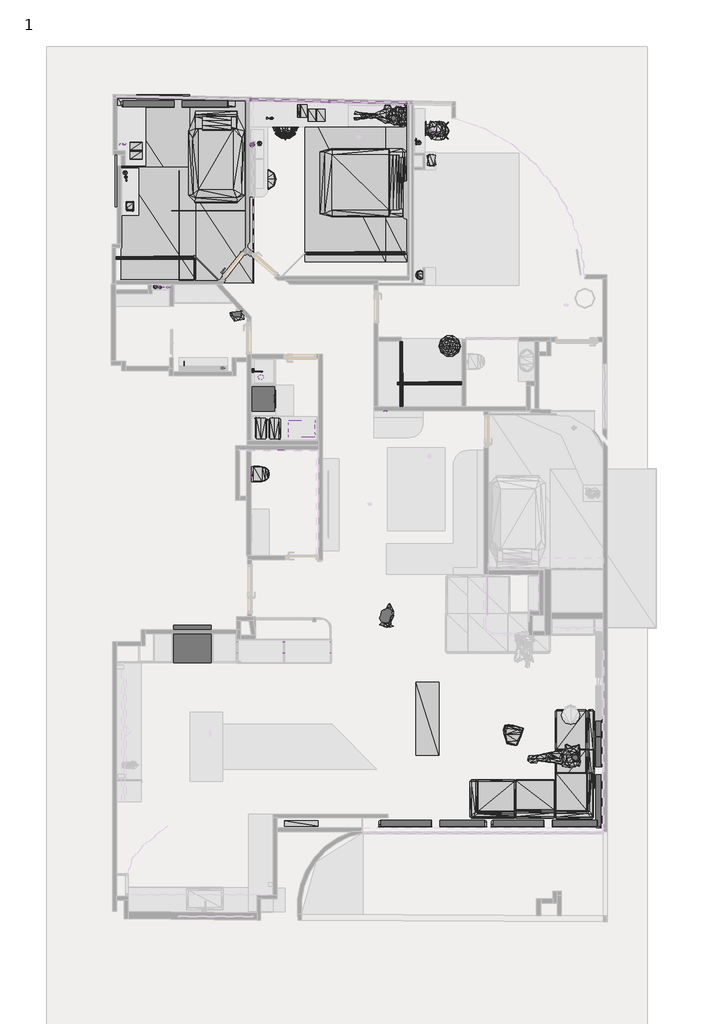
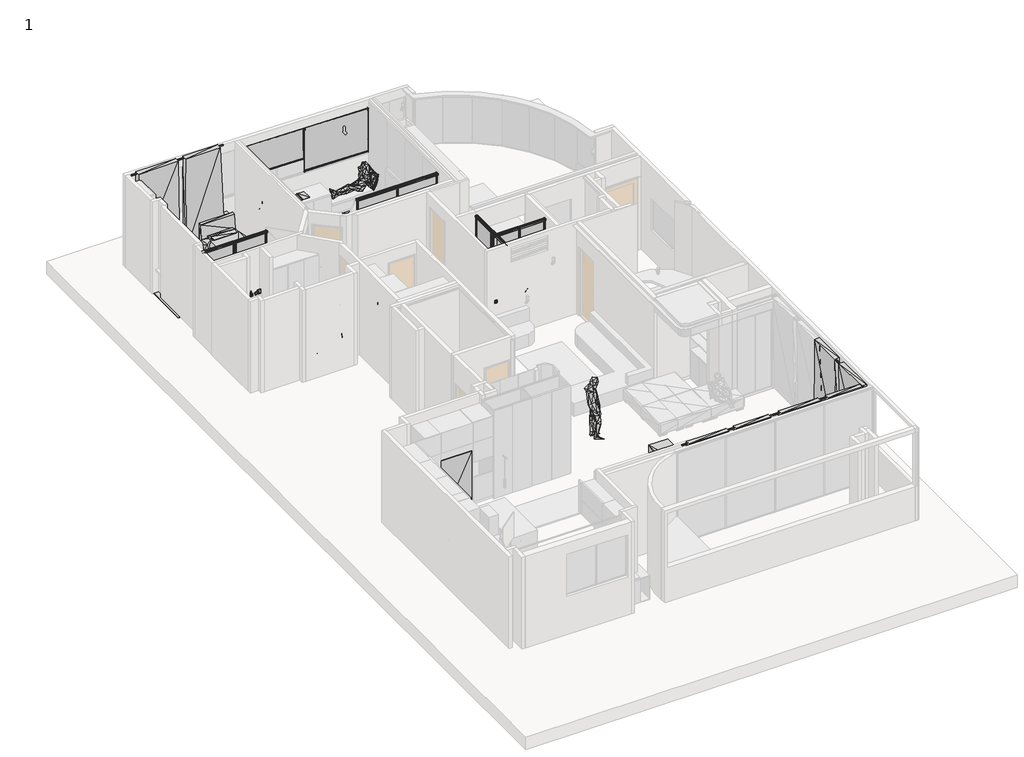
# One storey, part 10 of 11: 76 geographic elements, 21 proxies.
"""IFC4 building model written with IfcOpenShell, lengths in millimetres."""

from ifc_helpers import new_model, si_unit, origin, place, context, project, spatial, transform, mapped, element, save
from components import generic_models_e1ddd091, generic_models_de64f809, proxy_1_8_f4c32746, proxy_1_8_faa1cc4c, proxy_189_2_4748620c, proxy_189_2_be0c6724, proxy_194_fea3deca, proxy_194_778c1687, family3_family3_2d7e2772, ls_1520_ls_1520_03f69623, ls_900_1_gang_v_ls_900_1_gang_v_71324ef5, geographic_element_00167db2, geographic_element_baeea69e, geographic_element_f5c7f4e8, geographic_element_84cf364c, geographic_element_b15457b9, geographic_element_5121f11c, geographic_element_61ea8643, geographic_element_5fd375c3, geographic_element_2527c1db, geographic_element_b9c32f9a, enscape_assetdefinition_books_005_enscape_assetdefinition_b10d53aa, enscape_assetdefinition_chair_028_enscape_assetdefinition_7a4dbeed, enscape_assetdefinition_container_001_glass_enscape_05d8ce10, enscape_assetdefinition_creme_tube_003_enscape_79aa0b1a, enscape_assetdefinition_creme_tube_004_enscape_ba9f0d03, enscape_assetdefinition_creme_tube_005_enscape_e36b4c17, enscape_assetdefinition_creme_tube_006_enscape_deb4efeb, enscape_assetdefinition_faucet_004_enscape_assetdefinition_45639300, enscape_assetdefinition_flush_plate_004_enscape_ecd54baf, enscape_assetdefinition_pillow_010_enscape_assetdefinition_9ece25b9, enscape_assetdefinition_pillow_021_enscape_assetdefinition_4c80c713, enscape_assetdefinition_pouf_014_enscape_assetdefinition_d4033687, enscape_assetdefinition_refrigerator_007_enscape_9d81f1ac, enscape_assetdefinition_rug_008_enscape_assetdefinition_rug_19040a96, enscape_assetdefinition_soap_dispenser_001_enscape_b76c0e1f, enscape_assetdefinition_sofa_036_corner_enscape_ac6ef4ed, enscape_assetdefinition_sofa_040_enscape_assetdefinition_908a3bb4, enscape_assetdefinition_storage_box_002_enscape_b95ea167, enscape_assetdefinition_table_lamp_004_enscape_723846a9, enscape_assetdefinition_towel_004_enscape_assetdefinition_f5c1a14c, enscape_assetdefinition_towel_008_basket_enscape_9779ed23, enscape_assetdefinition_towel_009_stack_enscape_e0672893, enscape_assetdefinition_trolley_case_002_enscape_225e11ec, enscape_assetdefinition_trolley_case_003_enscape_f0869f00, enscape_assetdefinition_washing_machine_001_enscape_1ae1e846, tempenscape_assetdefinition_books_001_tempenscape_90869a48, tempenscape_assetdefinition_books_007_tempenscape_6df3b323, tempenscape_assetdefinition_chair_044_tempenscape_57264eab, tempenscape_assetdefinition_creme_tube_002_tempenscape_099a7565, tempenscape_assetdefinition_curtain_009_tempenscape_1b6ab596, tempenscape_assetdefinition_heater_001_tempenscape_d009f5ff, tempenscape_assetdefinition_library_sitting_02_tempenscape_2f781c9f, tempenscape_assetdefinition_pouf_010_tempenscape_f05cd489, tempenscape_assetdefinition_rug_018_tempenscape_b562c5ca, tempenscape_assetdefinition_soap_dispenser_002_tempenscape_9b9ddfe8, tempenscape_assetdefinition_stone_007_stone_tempenscape_f8b42c55, tempenscape_assetdefinition_toilet_001_tempenscape_ed570b02

model = new_model("IFC4")

# Units and contexts
model_context = context("Model", 3, world=origin())
ifc_project = project(units=[si_unit("LENGTHUNIT", "METRE", prefix="MILLI")], contexts=[model_context])

# Site, building, storey
site = spatial("IfcSite", under=ifc_project)
building = spatial("IfcBuilding", under=site)
storey = spatial("IfcBuildingStorey", under=building, Name="1", Elevation=0.0)

# Proxies
placement = place(None, origin())
generic_models_shape = generic_models_e1ddd091(model_context)
generic_models_2_shape = generic_models_de64f809(model_context)
element("IfcBuildingElementProxy", 1, Name="Doors-Other- SOGAL-SOG020022 : Doors-Other- SOGAL-SOG020022", ObjectType="Doors-Other- SOGAL-SOG020022 : Doors-Other- SOGAL-SOG020022", at=placement, inside=storey, context=model_context, shape_type="MappedRepresentation", body=[
    mapped(generic_models_shape, transform((93510.5964247, 22164.455081, 100.0), x_axis=(-1.0, 0.0, 0.0), y_axis=(0.0, -1.0, 0.0), z_axis=(0.0, 0.0, 1.0))),
    mapped(generic_models_2_shape, transform((93510.5964247, 22164.455081, 100.0), x_axis=(-1.0, 0.0, 0.0), y_axis=(0.0, -1.0, 0.0), z_axis=(0.0, 0.0, 1.0))),
])
proxy_1_8_shape = proxy_1_8_f4c32746(model_context)
proxy_1_8_2_shape = proxy_1_8_faa1cc4c(model_context)
element("IfcBuildingElementProxy", 2, Name="Doors-Other- SOGAL-SOG020022 : 1.8", ObjectType="Doors-Other- SOGAL-SOG020022 : 1.8", at=placement, inside=storey, context=model_context, shape_type="MappedRepresentation", body=[
    mapped(proxy_1_8_shape, transform((94682.5845465, 19143.4970592, 100.0), x_axis=(0.0, 1.0, 0.0), y_axis=(-1.0, 0.0, 0.0), z_axis=(0.0, 0.0, 1.0))),
    mapped(proxy_1_8_2_shape, transform((94682.5845465, 19143.4970592, 100.0), x_axis=(0.0, 1.0, 0.0), y_axis=(-1.0, 0.0, 0.0), z_axis=(0.0, 0.0, 1.0))),
])
element("IfcBuildingElementProxy", 3, Name="Doors-Other- SOGAL-SOG020022 : 1.8", ObjectType="Doors-Other- SOGAL-SOG020022 : 1.8", at=placement, inside=storey, context=model_context, shape_type="MappedRepresentation", body=[
    mapped(proxy_1_8_shape, transform((95334.7838788, 18958.8111171, 100.0), x_axis=(-1.0, 0.0, 0.0), y_axis=(0.0, -1.0, 0.0), z_axis=(0.0, 0.0, 1.0))),
    mapped(proxy_1_8_2_shape, transform((95334.7838788, 18958.8111171, 100.0), x_axis=(-1.0, 0.0, 0.0), y_axis=(0.0, -1.0, 0.0), z_axis=(0.0, 0.0, 1.0))),
])
proxy_189_2_shape = proxy_189_2_4748620c(model_context)
element("IfcBuildingElementProxy", 4, Name="Bandalux_RollerShades_Premium_SingleDrop : 189 2", ObjectType="Bandalux_RollerShades_Premium_SingleDrop : 189 2", at=placement, inside=storey, context=model_context, shape_type="MappedRepresentation", body=[
    mapped(proxy_189_2_shape, transform((93809.8691225, 25796.0618809, 2608.0), x_axis=(-0.9997504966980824, 0.02233706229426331, 0.0), y_axis=(0.0, 0.0, 1.0000000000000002), z_axis=(0.02233706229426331, 0.9997504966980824, 0.0))),
])
proxy_189_2_2_shape = proxy_189_2_be0c6724(model_context)
element("IfcBuildingElementProxy", 5, Name="Bandalux_RollerShades_Premium_SingleDrop : 189 2", ObjectType="Bandalux_RollerShades_Premium_SingleDrop : 189 2", at=placement, inside=storey, context=model_context, shape_type="MappedRepresentation", body=[
    mapped(proxy_189_2_2_shape, transform((91880.3506639, 25839.1724111, 2608.0), x_axis=(-0.9997504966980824, 0.02233706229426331, 0.0), y_axis=(0.0, 0.0, 1.0000000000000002), z_axis=(0.02233706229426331, 0.9997504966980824, 0.0))),
])
proxy_194_shape = proxy_194_fea3deca(model_context)
proxy_194_2_shape = proxy_194_778c1687(model_context)
element("IfcBuildingElementProxy", 6, Name="Doors-Other- SOGAL-SOG020022 : 194", ObjectType="Doors-Other- SOGAL-SOG020022 : 194", at=placement, inside=storey, context=model_context, shape_type="MappedRepresentation", body=[
    mapped(proxy_194_shape, transform((88558.7972847, 22051.7754811, 50.0), x_axis=(-1.0, 0.0, 0.0), y_axis=(0.0, -1.0, 0.0), z_axis=(0.0, 0.0, 1.0))),
    mapped(proxy_194_2_shape, transform((88558.7972847, 22051.7754811, 50.0), x_axis=(-1.0, 0.0, 0.0), y_axis=(0.0, -1.0, 0.0), z_axis=(0.0, 0.0, 1.0))),
])
family3_family3_shape = family3_family3_2d7e2772(model_context)
element("IfcBuildingElementProxy", 7, Name="Family3 : Family3", ObjectType="Family3 : Family3", at=placement, inside=storey, context=model_context, shape_type="MappedRepresentation", body=[
    mapped(family3_family3_shape, transform((90593.8549068, 12541.7518002, 1381.0), x_axis=(0.0, 0.0, -1.0), y_axis=(0.0, 1.0, 0.0), z_axis=(1.0, 0.0, 0.0))),
])
element("IfcBuildingElementProxy", 8, Name="Family3 : Family3", ObjectType="Family3 : Family3", at=placement, inside=storey, context=model_context, shape_type="MappedRepresentation", body=[
    mapped(family3_family3_shape, transform((90593.8549068, 12275.7518002, 1381.0), x_axis=(0.0, 0.0, -1.0), y_axis=(0.0, 1.0, 0.0), z_axis=(1.0, 0.0, 0.0))),
])
element("IfcBuildingElementProxy", 9, Name="Family3 : Family3", ObjectType="Family3 : Family3", at=placement, inside=storey, context=model_context, shape_type="MappedRepresentation", body=[
    mapped(family3_family3_shape, transform((91726.8549068, 12541.7518002, 1381.0), x_axis=(0.0, 0.0, -1.0), y_axis=(0.0, -1.0, 0.0), z_axis=(-1.0, 0.0, 0.0))),
])
element("IfcBuildingElementProxy", 10, Name="Family3 : Family3", ObjectType="Family3 : Family3", at=placement, inside=storey, context=model_context, shape_type="MappedRepresentation", body=[
    mapped(family3_family3_shape, transform((91726.8549068, 12275.7518002, 1381.0), x_axis=(0.0, 0.0, -1.0), y_axis=(0.0, -1.0, 0.0), z_axis=(-1.0, 0.0, 0.0))),
])
element("IfcBuildingElementProxy", 11, Name="Family3 : Family3", ObjectType="Family3 : Family3", at=placement, inside=storey, context=model_context, shape_type="MappedRepresentation", body=[
    mapped(family3_family3_shape, transform((91758.8549068, 12541.7518002, 1381.0), x_axis=(0.0, 0.0, -1.0), y_axis=(0.0, 1.0, 0.0), z_axis=(1.0, 0.0, 0.0))),
])
element("IfcBuildingElementProxy", 12, Name="Family3 : Family3", ObjectType="Family3 : Family3", at=placement, inside=storey, context=model_context, shape_type="MappedRepresentation", body=[
    mapped(family3_family3_shape, transform((91758.8549068, 12275.7518002, 1381.0), x_axis=(0.0, 0.0, -1.0), y_axis=(0.0, 1.0, 0.0), z_axis=(1.0, 0.0, 0.0))),
])
element("IfcBuildingElementProxy", 13, Name="Family3 : Family3", ObjectType="Family3 : Family3", at=placement, inside=storey, context=model_context, shape_type="MappedRepresentation", body=[
    mapped(family3_family3_shape, transform((92891.8549068, 12541.7518002, 1381.0), x_axis=(0.0, 0.0, -1.0), y_axis=(0.0, -1.0, 0.0), z_axis=(-1.0, 0.0, 0.0))),
])
element("IfcBuildingElementProxy", 14, Name="Family3 : Family3", ObjectType="Family3 : Family3", at=placement, inside=storey, context=model_context, shape_type="MappedRepresentation", body=[
    mapped(family3_family3_shape, transform((92891.8549068, 12275.7518002, 1381.0), x_axis=(0.0, 0.0, -1.0), y_axis=(0.0, -1.0, 0.0), z_axis=(-1.0, 0.0, 0.0))),
])
element("IfcBuildingElementProxy", 15, Name="Family3 : Family3", ObjectType="Family3 : Family3", at=placement, inside=storey, context=model_context, shape_type="MappedRepresentation", body=[
    mapped(family3_family3_shape, transform((90061.2286607, 10696.1644283, 631.0), x_axis=(0.0, 0.0, -1.0), y_axis=(1.0, 0.0, 0.0), z_axis=(0.0, -1.0, 0.0))),
])
element("IfcBuildingElementProxy", 16, Name="Family3 : Family3", ObjectType="Family3 : Family3", at=placement, inside=storey, context=model_context, shape_type="MappedRepresentation", body=[
    mapped(family3_family3_shape, transform((90061.2286607, 10228.1644283, 631.0), x_axis=(0.0, 0.0, -1.0), y_axis=(-1.0, 0.0, 0.0), z_axis=(0.0, 1.0, 0.0))),
])
element("IfcBuildingElementProxy", 17, Name="Family3 : Family3", ObjectType="Family3 : Family3", at=placement, inside=storey, context=model_context, shape_type="MappedRepresentation", body=[
    mapped(family3_family3_shape, transform((89795.2286607, 10228.1644283, 631.0), x_axis=(0.0, 0.0, -1.0), y_axis=(-1.0, 0.0, 0.0), z_axis=(0.0, 1.0, 0.0))),
])
element("IfcBuildingElementProxy", 18, Name="Family3 : Family3", ObjectType="Family3 : Family3", at=placement, inside=storey, context=model_context, shape_type="MappedRepresentation", body=[
    mapped(family3_family3_shape, transform((90061.2286607, 10191.101384, 631.0), x_axis=(0.0, 0.0, -1.0), y_axis=(1.0, 0.0, 0.0), z_axis=(0.0, -1.0, 0.0))),
])
element("IfcBuildingElementProxy", 19, Name="Family3 : Family3", ObjectType="Family3 : Family3", at=placement, inside=storey, context=model_context, shape_type="MappedRepresentation", body=[
    mapped(family3_family3_shape, transform((89795.2286607, 10191.101384, 631.0), x_axis=(0.0, 0.0, -1.0), y_axis=(1.0, 0.0, 0.0), z_axis=(0.0, -1.0, 0.0))),
])
ls_1520_ls_1520_shape = ls_1520_ls_1520_03f69623(model_context)
element("IfcBuildingElementProxy", 20, Name="LS 1520 : LS 1520", ObjectType="LS 1520 : LS 1520", at=placement, inside=storey, context=model_context, shape_type="MappedRepresentation", body=[
    mapped(ls_1520_ls_1520_shape, transform((94202.3345869, 18231.2281393, 1205.2), x_axis=(1.0, 0.0, 0.0), y_axis=(0.0, 0.0, 1.0), z_axis=(0.0, -1.0, 0.0))),
])
ls_900_1_gang_v_ls_900_1_gang_v_shape = ls_900_1_gang_v_ls_900_1_gang_v_71324ef5(model_context)
element("IfcBuildingElementProxy", 21, Name="LS 900_1-gang_V : LS 900_1-gang_V", ObjectType="LS 900_1-gang_V : LS 900_1-gang_V", at=placement, inside=storey, context=model_context, shape_type="MappedRepresentation", body=[
    mapped(ls_900_1_gang_v_ls_900_1_gang_v_shape, transform((94197.5845869, 18234.4281393, 1200.0), x_axis=(1.0, 0.0, 0.0), y_axis=(0.0, 0.0, 1.0), z_axis=(0.0, -1.0, 0.0))),
])

# Geographic elements
geographic_element_shape = geographic_element_00167db2(model_context)
element("IfcGeographicElement", 22, ObjectType="Enscape AssetDefinition - Elsje 001 Sitting : Enscape AssetDefinition - Elsje 001 Sitting", at=placement, inside=storey, context=model_context, shape_type="MappedRepresentation", body=[
    mapped(geographic_element_shape, transform((95485.3744747, 25129.5137259, 0.0), x_axis=(0.43006132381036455, -0.9027996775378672, 0.0), y_axis=(0.9027996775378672, 0.43006132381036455, 0.0), z_axis=(0.0, 0.0, 1.0))),
])
geographic_element_2_shape = geographic_element_baeea69e(model_context)
element("IfcGeographicElement", 23, ObjectType="Enscape AssetDefinition - Decorative Goods 030 Room Fragrance : Enscape AssetDefinition - Decorative Goods 030 Room Fragrance", at=placement, inside=storey, context=model_context, shape_type="MappedRepresentation", body=[
    mapped(geographic_element_2_shape, transform((90948.3823194, 24795.4054772, 1288.0044682), x_axis=(1.0, 0.0, 0.0), y_axis=(0.0, 1.0, 0.0), z_axis=(0.0, 0.0, 1.0))),
])
element("IfcGeographicElement", 24, ObjectType="Enscape AssetDefinition - Decorative Goods 030 Room Fragrance : Enscape AssetDefinition - Decorative Goods 030 Room Fragrance", at=placement, inside=storey, context=model_context, shape_type="MappedRepresentation", body=[
    mapped(geographic_element_2_shape, transform((90223.3368224, 19288.7930527, 770.0), x_axis=(-1.0, 0.0, 0.0), y_axis=(0.0, -1.0, 0.0), z_axis=(0.0, 0.0, 1.0))),
])
geographic_element_3_shape = geographic_element_f5c7f4e8(model_context)
element("IfcGeographicElement", 25, ObjectType="TempEnscape AssetDefinition - Decorative Goods 012 Bird : TempEnscape AssetDefinition - Decorative Goods 012 Bird", at=placement, inside=storey, context=model_context, shape_type="MappedRepresentation", body=[
    mapped(geographic_element_3_shape, transform((91435.5964247, 25438.8111171, 745.6495342), x_axis=(0.0, 1.0, 0.0), y_axis=(-1.0, 0.0, 0.0), z_axis=(0.0, 0.0, 1.0))),
])
geographic_element_4_shape = geographic_element_84cf364c(model_context)
element("IfcGeographicElement", 26, ObjectType="TempEnscape AssetDefinition - Notebook 003 Stack : TempEnscape AssetDefinition - Notebook 003 Stack", at=placement, inside=storey, context=model_context, shape_type="MappedRepresentation", body=[
    mapped(geographic_element_4_shape, transform((92186.5970845, 25620.8264862, 745.6495342), x_axis=(1.0, 0.0, 0.0), y_axis=(0.0, 1.0, 0.0), z_axis=(0.0, 0.0, 1.0))),
])
geographic_element_5_shape = geographic_element_b15457b9(model_context)
element("IfcGeographicElement", 27, ObjectType="TempEnscape AssetDefinition - Notebook 001 Open : TempEnscape AssetDefinition - Notebook 001 Open", at=placement, inside=storey, context=model_context, shape_type="MappedRepresentation", body=[
    mapped(geographic_element_5_shape, transform((92541.5040083, 25513.9432158, 745.6495342), x_axis=(1.0, 0.0, 0.0), y_axis=(0.0, 1.0, 0.0), z_axis=(0.0, 0.0, 1.0))),
])
element("IfcGeographicElement", 28, ObjectType="TempEnscape AssetDefinition - Notebook 001 Open : TempEnscape AssetDefinition - Notebook 001 Open", at=placement, inside=storey, context=model_context, shape_type="MappedRepresentation", body=[
    mapped(geographic_element_5_shape, transform((88096.6613055, 24639.2985284, 750.9574511), x_axis=(0.0, 1.0, 0.0), y_axis=(-1.0, 0.0, 0.0), z_axis=(0.0, 0.0, 1.0))),
])
geographic_element_6_shape = geographic_element_5121f11c(model_context)
element("IfcGeographicElement", 29, ObjectType="TempEnscape AssetDefinition - Alex 002 Sitting : TempEnscape AssetDefinition - Alex 002 Sitting", at=placement, inside=storey, context=model_context, shape_type="MappedRepresentation", body=[
    mapped(geographic_element_6_shape, transform((98625.1993701, 9682.3363239, 0.0), x_axis=(0.0, -1.0, 0.0), y_axis=(1.0, 0.0, 0.0), z_axis=(0.0, 0.0, 1.0))),
])
geographic_element_7_shape = geographic_element_61ea8643(model_context)
element("IfcGeographicElement", 30, ObjectType="Enscape AssetDefinition - Eli 003 Standing : Enscape AssetDefinition - Eli 003 Standing", at=placement, inside=storey, context=model_context, shape_type="MappedRepresentation", body=[
    mapped(geographic_element_7_shape, transform((94336.2614834, 13166.8008127, 0.0), x_axis=(0.0, 1.0, 0.0), y_axis=(-1.0, 0.0, 0.0), z_axis=(0.0, 0.0, 1.0))),
])
geographic_element_8_shape = geographic_element_5fd375c3(model_context)
element("IfcGeographicElement", 31, ObjectType="Enscape AssetDefinition - Bed 012 100x208 cm (20x82 in) : Enscape AssetDefinition - Bed 012 100x208 cm (20x82 in)", at=placement, inside=storey, context=model_context, shape_type="MappedRepresentation", body=[
    mapped(geographic_element_8_shape, transform((90070.4867294, 24579.2985284, 0.0), x_axis=(1.0, 0.0, 0.0), y_axis=(0.0, 1.0, 0.0), z_axis=(0.0, 0.0, 1.0))),
])
geographic_element_9_shape = geographic_element_2527c1db(model_context)
element("IfcGeographicElement", 32, ObjectType="TempEnscape AssetDefinition - Bed 014 164x220 cm (64x86 in) : TempEnscape AssetDefinition - Bed 014 164x220 cm (64x86 in)", at=placement, inside=storey, context=model_context, shape_type="MappedRepresentation", body=[
    mapped(geographic_element_9_shape, transform((93797.9241015, 23854.1923973, 0.0), x_axis=(0.0, -1.0, 0.0), y_axis=(1.0, 0.0, 0.0), z_axis=(0.0, 0.0, 1.0))),
])
geographic_element_10_shape = geographic_element_b9c32f9a(model_context)
element("IfcGeographicElement", 33, ObjectType="TempEnscape AssetDefinition - Anita 002 Sitting : TempEnscape AssetDefinition - Anita 002 Sitting", at=placement, inside=storey, context=model_context, shape_type="MappedRepresentation", body=[
    mapped(geographic_element_10_shape, transform((94109.8466293, 25474.3411788, 410.3965501), x_axis=(0.0, 1.0, 0.0), y_axis=(-1.0, 0.0, 0.0), z_axis=(0.0, 0.0, 1.0))),
])
enscape_assetdefinition_books_005_enscape_assetdefinition_shape = enscape_assetdefinition_books_005_enscape_assetdefinition_b10d53aa(model_context)
element("IfcGeographicElement", 34, ObjectType="Enscape AssetDefinition - Books 005 : Enscape AssetDefinition - Books 005", at=placement, inside=storey, context=model_context, shape_type="MappedRepresentation", body=[
    mapped(enscape_assetdefinition_books_005_enscape_assetdefinition_shape, transform((95394.604902, 24400.8480692, 335.8853505), x_axis=(0.0, 1.0, 0.0), y_axis=(-1.0, 0.0, 0.0), z_axis=(0.0, 0.0, 1.0))),
])
enscape_assetdefinition_chair_028_enscape_assetdefinition_shape = enscape_assetdefinition_chair_028_enscape_assetdefinition_7a4dbeed(model_context)
element("IfcGeographicElement", 35, ObjectType="Enscape AssetDefinition - Chair 028 : Enscape AssetDefinition - Chair 028", at=placement, inside=storey, context=model_context, shape_type="MappedRepresentation", body=[
    mapped(enscape_assetdefinition_chair_028_enscape_assetdefinition_shape, transform((95606.0615727, 25131.7991439, 0.0), x_axis=(0.0, -1.0, 0.0), y_axis=(1.0, 0.0, 0.0), z_axis=(0.0, 0.0, 1.0))),
])
enscape_assetdefinition_container_001_glass_enscape_shape = enscape_assetdefinition_container_001_glass_enscape_05d8ce10(model_context)
element("IfcGeographicElement", 36, ObjectType="Enscape AssetDefinition - Container 001 Glass : Enscape AssetDefinition - Container 001 Glass", at=placement, inside=storey, context=model_context, shape_type="MappedRepresentation", body=[
    mapped(enscape_assetdefinition_container_001_glass_enscape_shape, transform((90958.1562006, 24785.1793611, 1068.0044682), x_axis=(1.0, 0.0, 0.0), y_axis=(0.0, 1.0, 0.0), z_axis=(0.0, 0.0, 1.0))),
])
enscape_assetdefinition_creme_tube_003_enscape_shape = enscape_assetdefinition_creme_tube_003_enscape_79aa0b1a(model_context)
element("IfcGeographicElement", 37, ObjectType="Enscape AssetDefinition - Creme Tube 003 : Enscape AssetDefinition - Creme Tube 003", at=placement, inside=storey, context=model_context, shape_type="MappedRepresentation", body=[
    mapped(enscape_assetdefinition_creme_tube_003_enscape_shape, transform((90975.5964247, 24796.1744175, 804.0), x_axis=(0.0, 1.0, 0.0), y_axis=(-1.0, 0.0, 0.0), z_axis=(0.0, 0.0, 1.0))),
])
element("IfcGeographicElement", 38, ObjectType="Enscape AssetDefinition - Creme Tube 003 : Enscape AssetDefinition - Creme Tube 003", at=placement, inside=storey, context=model_context, shape_type="MappedRepresentation", body=[
    mapped(enscape_assetdefinition_creme_tube_003_enscape_shape, transform((88694.9742313, 21279.8259418, 1139.3658047), x_axis=(1.0, 0.0, 0.0), y_axis=(0.0, 1.0, 0.0), z_axis=(0.0, 0.0, 1.0))),
])
element("IfcGeographicElement", 39, ObjectType="Enscape AssetDefinition - Creme Tube 003 : Enscape AssetDefinition - Creme Tube 003", at=placement, inside=storey, context=model_context, shape_type="MappedRepresentation", body=[
    mapped(enscape_assetdefinition_creme_tube_003_enscape_shape, transform((88879.9742313, 21279.8259418, 1468.2878402), x_axis=(1.0, 0.0, 0.0), y_axis=(0.0, 1.0, 0.0), z_axis=(0.0, 0.0, 1.0))),
])
element("IfcGeographicElement", 40, ObjectType="Enscape AssetDefinition - Creme Tube 003 : Enscape AssetDefinition - Creme Tube 003", at=placement, inside=storey, context=model_context, shape_type="MappedRepresentation", body=[
    mapped(enscape_assetdefinition_creme_tube_003_enscape_shape, transform((94994.7838788, 24892.8529879, 826.9413776), x_axis=(0.0, 1.0, 0.0), y_axis=(-1.0, 0.0, 0.0), z_axis=(0.0, 0.0, 1.0))),
])
enscape_assetdefinition_creme_tube_004_enscape_shape = enscape_assetdefinition_creme_tube_004_enscape_ba9f0d03(model_context)
element("IfcGeographicElement", 41, ObjectType="Enscape AssetDefinition - Creme Tube 004 : Enscape AssetDefinition - Creme Tube 004", at=placement, inside=storey, context=model_context, shape_type="MappedRepresentation", body=[
    mapped(enscape_assetdefinition_creme_tube_004_enscape_shape, transform((87860.581112, 23909.1309386, 751.5554511), x_axis=(0.0, 1.0, 0.0), y_axis=(-1.0, 0.0, 0.0), z_axis=(0.0, 0.0, 1.0))),
])
element("IfcGeographicElement", 42, ObjectType="Enscape AssetDefinition - Creme Tube 004 : Enscape AssetDefinition - Creme Tube 004", at=placement, inside=storey, context=model_context, shape_type="MappedRepresentation", body=[
    mapped(enscape_assetdefinition_creme_tube_004_enscape_shape, transform((90985.0542569, 24761.1744175, 1548.0044682), x_axis=(0.0, 1.0, 0.0), y_axis=(-1.0, 0.0, 0.0), z_axis=(0.0, 0.0, 1.0))),
])
element("IfcGeographicElement", 43, ObjectType="Enscape AssetDefinition - Creme Tube 004 : Enscape AssetDefinition - Creme Tube 004", at=placement, inside=storey, context=model_context, shape_type="MappedRepresentation", body=[
    mapped(enscape_assetdefinition_creme_tube_004_enscape_shape, transform((94997.3556537, 24807.3248325, 826.9413776), x_axis=(0.0, 1.0, 0.0), y_axis=(-1.0, 0.0, 0.0), z_axis=(0.0, 0.0, 1.0))),
])
enscape_assetdefinition_creme_tube_005_enscape_shape = enscape_assetdefinition_creme_tube_005_enscape_e36b4c17(model_context)
element("IfcGeographicElement", 44, ObjectType="Enscape AssetDefinition - Creme Tube 005 : Enscape AssetDefinition - Creme Tube 005", at=placement, inside=storey, context=model_context, shape_type="MappedRepresentation", body=[
    mapped(enscape_assetdefinition_creme_tube_005_enscape_shape, transform((87844.253874, 23993.9871066, 751.5554511), x_axis=(1.0, 0.0, 0.0), y_axis=(0.0, 1.0, 0.0), z_axis=(0.0, 0.0, 1.0))),
])
element("IfcGeographicElement", 45, ObjectType="Enscape AssetDefinition - Creme Tube 005 : Enscape AssetDefinition - Creme Tube 005", at=placement, inside=storey, context=model_context, shape_type="MappedRepresentation", body=[
    mapped(enscape_assetdefinition_creme_tube_005_enscape_shape, transform((90977.1625169, 24826.1744175, 1548.0044682), x_axis=(1.0, 0.0, 0.0), y_axis=(0.0, 1.0, 0.0), z_axis=(0.0, 0.0, 1.0))),
])
element("IfcGeographicElement", 46, ObjectType="Enscape AssetDefinition - Creme Tube 005 : Enscape AssetDefinition - Creme Tube 005", at=placement, inside=storey, context=model_context, shape_type="MappedRepresentation", body=[
    mapped(enscape_assetdefinition_creme_tube_005_enscape_shape, transform((91100.5964247, 24021.1744175, 606.1629126), x_axis=(1.0, 0.0, 0.0), y_axis=(0.0, 1.0, 0.0), z_axis=(0.0, 0.0, 1.0))),
])
enscape_assetdefinition_creme_tube_006_enscape_shape = enscape_assetdefinition_creme_tube_006_enscape_deb4efeb(model_context)
element("IfcGeographicElement", 47, ObjectType="Enscape AssetDefinition - Creme Tube 006 : Enscape AssetDefinition - Creme Tube 006", at=placement, inside=storey, context=model_context, shape_type="MappedRepresentation", body=[
    mapped(enscape_assetdefinition_creme_tube_006_enscape_shape, transform((95068.4991704, 24839.300349, 826.9413776), x_axis=(1.0, 0.0, 0.0), y_axis=(0.0, 1.0, 0.0), z_axis=(0.0, 0.0, 1.0))),
])
enscape_assetdefinition_faucet_004_enscape_assetdefinition_shape = enscape_assetdefinition_faucet_004_enscape_assetdefinition_45639300(model_context)
element("IfcGeographicElement", 48, ObjectType="Enscape AssetDefinition - Faucet 004 : Enscape AssetDefinition - Faucet 004", at=placement, inside=storey, context=model_context, shape_type="MappedRepresentation", body=[
    mapped(enscape_assetdefinition_faucet_004_enscape_assetdefinition_shape, transform((90978.200692, 19203.4392141, 901.7599999), x_axis=(0.0, 1.0, 0.0), y_axis=(-1.0, 0.0, 0.0), z_axis=(0.0, 0.0, 1.0))),
])
enscape_assetdefinition_flush_plate_004_enscape_shape = enscape_assetdefinition_flush_plate_004_enscape_ecd54baf(model_context)
element("IfcGeographicElement", 49, ObjectType="Enscape AssetDefinition - Flush Plate 004 : Enscape AssetDefinition - Flush Plate 004", at=placement, inside=storey, context=model_context, shape_type="MappedRepresentation", body=[
    mapped(enscape_assetdefinition_flush_plate_004_enscape_shape, transform((91670.9091371, 17279.0614237, 1319.5279955), x_axis=(1.0, 0.0, 0.0), y_axis=(0.0, 1.0, 0.0), z_axis=(0.0, 0.0, 1.0))),
])
element("IfcGeographicElement", 50, ObjectType="Enscape AssetDefinition - Flush Plate 004 : Enscape AssetDefinition - Flush Plate 004", at=placement, inside=storey, context=model_context, shape_type="MappedRepresentation", body=[
    mapped(enscape_assetdefinition_flush_plate_004_enscape_shape, transform((90925.423998, 16680.4434784, 1320.1562534), x_axis=(0.0, 1.0, 0.0), y_axis=(-1.0, 0.0, 0.0), z_axis=(0.0, 0.0, 1.0))),
])
enscape_assetdefinition_pillow_010_enscape_assetdefinition_shape = enscape_assetdefinition_pillow_010_enscape_assetdefinition_9ece25b9(model_context)
element("IfcGeographicElement", 51, ObjectType="Enscape AssetDefinition - Pillow 010 : Enscape AssetDefinition - Pillow 010", at=placement, inside=storey, context=model_context, shape_type="MappedRepresentation", body=[
    mapped(enscape_assetdefinition_pillow_010_enscape_assetdefinition_shape, transform((94678.8466293, 25499.1842947, 410.3965501), x_axis=(0.0, -1.0, 0.0), y_axis=(1.0, 0.0, 0.0), z_axis=(0.0, 0.0, 1.0))),
])
enscape_assetdefinition_pillow_021_enscape_assetdefinition_shape = enscape_assetdefinition_pillow_021_enscape_assetdefinition_4c80c713(model_context)
element("IfcGeographicElement", 52, ObjectType="Enscape AssetDefinition - Pillow 021 : Enscape AssetDefinition - Pillow 021", at=placement, inside=storey, context=model_context, shape_type="MappedRepresentation", body=[
    mapped(enscape_assetdefinition_pillow_021_enscape_assetdefinition_shape, transform((98844.3502509, 9762.3363239, 450.0), x_axis=(0.0, -1.0, 0.0), y_axis=(1.0, 0.0, 0.0), z_axis=(0.0, 0.0, 1.0))),
])
enscape_assetdefinition_pouf_014_enscape_assetdefinition_shape = enscape_assetdefinition_pouf_014_enscape_assetdefinition_d4033687(model_context)
element("IfcGeographicElement", 53, ObjectType="Enscape AssetDefinition - Pouf 014 : Enscape AssetDefinition - Pouf 014", at=placement, inside=storey, context=model_context, shape_type="MappedRepresentation", body=[
    mapped(enscape_assetdefinition_pouf_014_enscape_assetdefinition_shape, transform((95824.9879055, 19832.3905873, 0.0), x_axis=(1.0, 0.0, 0.0), y_axis=(0.0, 1.0, 0.0), z_axis=(0.0, 0.0, 1.0))),
])
enscape_assetdefinition_refrigerator_007_enscape_shape = enscape_assetdefinition_refrigerator_007_enscape_9d81f1ac(model_context)
element("IfcGeographicElement", 54, ObjectType="Enscape AssetDefinition - Refrigerator 007 : Enscape AssetDefinition - Refrigerator 007", at=placement, inside=storey, context=model_context, shape_type="MappedRepresentation", body=[
    mapped(enscape_assetdefinition_refrigerator_007_enscape_shape, transform((89483.5455637, 12500.7398651, -180.0), x_axis=(1.0, 0.0, 0.0), y_axis=(0.0, 1.0, 0.0), z_axis=(0.0, 0.0, 1.0))),
])
enscape_assetdefinition_rug_008_enscape_assetdefinition_rug_shape = enscape_assetdefinition_rug_008_enscape_assetdefinition_rug_19040a96(model_context)
element("IfcGeographicElement", 55, ObjectType="Enscape AssetDefinition - Rug 008 : Enscape AssetDefinition - Rug 008", at=placement, inside=storey, context=model_context, shape_type="MappedRepresentation", body=[
    mapped(enscape_assetdefinition_rug_008_enscape_assetdefinition_rug_shape, transform((89890.4867294, 24539.2985284, 0.0), x_axis=(1.0, 0.0, 0.0), y_axis=(0.0, 1.0, 0.0), z_axis=(0.0, 0.0, 1.0))),
])
element("IfcGeographicElement", 56, ObjectType="Enscape AssetDefinition - Rug 008 : Enscape AssetDefinition - Rug 008", at=placement, inside=storey, context=model_context, shape_type="MappedRepresentation", body=[
    mapped(enscape_assetdefinition_rug_008_enscape_assetdefinition_rug_shape, transform((88498.7972847, 24639.2985284, 0.0), x_axis=(1.0, 0.0, 0.0), y_axis=(0.0, 1.0, 0.0), z_axis=(0.0, 0.0, 1.0))),
])
element("IfcGeographicElement", 57, ObjectType="Enscape AssetDefinition - Rug 008 : Enscape AssetDefinition - Rug 008", at=placement, inside=storey, context=model_context, shape_type="MappedRepresentation", body=[
    mapped(enscape_assetdefinition_rug_008_enscape_assetdefinition_rug_shape, transform((88647.0963876, 22856.0965018, 0.0), x_axis=(-1.0, 0.0, 0.0), y_axis=(0.0, -1.0, 0.0), z_axis=(0.0, 0.0, 1.0))),
])
element("IfcGeographicElement", 58, ObjectType="Enscape AssetDefinition - Rug 008 : Enscape AssetDefinition - Rug 008", at=placement, inside=storey, context=model_context, shape_type="MappedRepresentation", body=[
    mapped(enscape_assetdefinition_rug_008_enscape_assetdefinition_rug_shape, transform((90070.4867294, 22768.4619884, 0.0), x_axis=(-1.0, 0.0, 0.0), y_axis=(0.0, -1.0, 0.0), z_axis=(0.0, 0.0, 1.0))),
])
enscape_assetdefinition_soap_dispenser_001_enscape_shape = enscape_assetdefinition_soap_dispenser_001_enscape_b76c0e1f(model_context)
element("IfcGeographicElement", 59, ObjectType="Enscape AssetDefinition - Soap Dispenser 001 : Enscape AssetDefinition - Soap Dispenser 001", at=placement, inside=storey, context=model_context, shape_type="MappedRepresentation", body=[
    mapped(enscape_assetdefinition_soap_dispenser_001_enscape_shape, transform((91171.9328488, 19066.7006145, 1517.9834133), x_axis=(0.0, 1.0, 0.0), y_axis=(-1.0, 0.0, 0.0), z_axis=(0.0, 0.0, 1.0))),
])
enscape_assetdefinition_sofa_036_corner_enscape_shape = enscape_assetdefinition_sofa_036_corner_enscape_ac6ef4ed(model_context)
element("IfcGeographicElement", 60, ObjectType="Enscape AssetDefinition - Sofa 036 Corner : Enscape AssetDefinition - Sofa 036 Corner", at=placement, inside=storey, context=model_context, shape_type="MappedRepresentation", body=[
    mapped(enscape_assetdefinition_sofa_036_corner_enscape_shape, transform((96911.9283832, 8671.3988859, 0.0), x_axis=(1.0, 0.0, 0.0), y_axis=(0.0, 1.0, 0.0), z_axis=(0.0, 0.0, 1.0))),
])
element("IfcGeographicElement", 61, ObjectType="Enscape AssetDefinition - Sofa 036 Corner : Enscape AssetDefinition - Sofa 036 Corner", at=placement, inside=storey, context=model_context, shape_type="MappedRepresentation", body=[
    mapped(enscape_assetdefinition_sofa_036_corner_enscape_shape, transform((98904.3502509, 8788.2170362, 0.0), x_axis=(0.0, 1.0, 0.0), y_axis=(-1.0, 0.0, 0.0), z_axis=(0.0, 0.0, 1.0))),
])
enscape_assetdefinition_sofa_040_enscape_assetdefinition_shape = enscape_assetdefinition_sofa_040_enscape_assetdefinition_908a3bb4(model_context)
element("IfcGeographicElement", 62, ObjectType="Enscape AssetDefinition - Sofa 040 : Enscape AssetDefinition - Sofa 040", at=placement, inside=storey, context=model_context, shape_type="MappedRepresentation", body=[
    mapped(enscape_assetdefinition_sofa_040_enscape_assetdefinition_shape, transform((98909.3502509, 10373.8786425, 0.0), x_axis=(0.0, -1.0, 0.0), y_axis=(1.0, 0.0, 0.0), z_axis=(0.0, 0.0, 1.0))),
])
element("IfcGeographicElement", 63, ObjectType="Enscape AssetDefinition - Sofa 040 : Enscape AssetDefinition - Sofa 040", at=placement, inside=storey, context=model_context, shape_type="MappedRepresentation", body=[
    mapped(enscape_assetdefinition_sofa_040_enscape_assetdefinition_shape, transform((98909.3502509, 9413.8786425, 0.0), x_axis=(0.0, -1.0, 0.0), y_axis=(1.0, 0.0, 0.0), z_axis=(0.0, 0.0, 1.0))),
])
element("IfcGeographicElement", 64, ObjectType="Enscape AssetDefinition - Sofa 040 : Enscape AssetDefinition - Sofa 040", at=placement, inside=storey, context=model_context, shape_type="MappedRepresentation", body=[
    mapped(enscape_assetdefinition_sofa_040_enscape_assetdefinition_shape, transform((97924.3502509, 8682.3363239, 0.0), x_axis=(-1.0, 0.0, 0.0), y_axis=(0.0, -1.0, 0.0), z_axis=(0.0, 0.0, 1.0))),
])
enscape_assetdefinition_storage_box_002_enscape_shape = enscape_assetdefinition_storage_box_002_enscape_b95ea167(model_context)
element("IfcGeographicElement", 65, ObjectType="Enscape AssetDefinition - Storage Box 002 : Enscape AssetDefinition - Storage Box 002", at=placement, inside=storey, context=model_context, shape_type="MappedRepresentation", body=[
    mapped(enscape_assetdefinition_storage_box_002_enscape_shape, transform((92176.5419883, 17799.375477, 2020.9596521), x_axis=(0.0, 1.0, 0.0), y_axis=(-1.0, 0.0, 0.0), z_axis=(0.0, 0.0, 1.0))),
])
enscape_assetdefinition_table_lamp_004_enscape_shape = enscape_assetdefinition_table_lamp_004_enscape_723846a9(model_context)
element("IfcGeographicElement", 66, ObjectType="Enscape AssetDefinition - Table Lamp 004 : Enscape AssetDefinition - Table Lamp 004", at=placement, inside=storey, context=model_context, shape_type="MappedRepresentation", body=[
    mapped(enscape_assetdefinition_table_lamp_004_enscape_shape, transform((95099.145918, 21578.5122751, 335.0), x_axis=(1.0, 0.0, 0.0), y_axis=(0.0, 1.0, 0.0), z_axis=(0.0, 0.0, 1.0))),
])
enscape_assetdefinition_towel_004_enscape_assetdefinition_shape = enscape_assetdefinition_towel_004_enscape_assetdefinition_f5c1a14c(model_context)
element("IfcGeographicElement", 67, ObjectType="Enscape AssetDefinition - Towel 004 : Enscape AssetDefinition - Towel 004", at=placement, inside=storey, context=model_context, shape_type="MappedRepresentation", body=[
    mapped(enscape_assetdefinition_towel_004_enscape_assetdefinition_shape, transform((90556.1249883, 20675.6103518, 1700.0), x_axis=(0.9860415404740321, 0.16649949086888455, 0.0), y_axis=(-0.16649949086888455, 0.9860415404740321, 0.0), z_axis=(0.0, 0.0, 1.0))),
])
enscape_assetdefinition_towel_008_basket_enscape_shape = enscape_assetdefinition_towel_008_basket_enscape_9779ed23(model_context)
element("IfcGeographicElement", 68, ObjectType="Enscape AssetDefinition - Towel 008 Basket : Enscape AssetDefinition - Towel 008 Basket", at=placement, inside=storey, context=model_context, shape_type="MappedRepresentation", body=[
    mapped(enscape_assetdefinition_towel_008_basket_enscape_shape, transform((91255.7190128, 18424.7159446, 118.7196902), x_axis=(0.0, 1.0, 0.0), y_axis=(-1.0, 0.0, 0.0), z_axis=(0.0, 0.0, 1.0))),
])
enscape_assetdefinition_towel_009_stack_enscape_shape = enscape_assetdefinition_towel_009_stack_enscape_e0672893(model_context)
element("IfcGeographicElement", 69, ObjectType="Enscape AssetDefinition - Towel 009 Stack : Enscape AssetDefinition - Towel 009 Stack", at=placement, inside=storey, context=model_context, shape_type="MappedRepresentation", body=[
    mapped(enscape_assetdefinition_towel_009_stack_enscape_shape, transform((89468.3368224, 19288.7930527, 448.3898917), x_axis=(-1.0, 0.0, 0.0), y_axis=(0.0, -1.0, 0.0), z_axis=(0.0, 0.0, 1.0))),
])
enscape_assetdefinition_trolley_case_002_enscape_shape = enscape_assetdefinition_trolley_case_002_enscape_225e11ec(model_context)
element("IfcGeographicElement", 70, ObjectType="Enscape AssetDefinition - Trolley Case 002 : Enscape AssetDefinition - Trolley Case 002", at=placement, inside=storey, context=model_context, shape_type="MappedRepresentation", body=[
    mapped(enscape_assetdefinition_trolley_case_002_enscape_shape, transform((91500.5696148, 17804.1562218, 120.0), x_axis=(0.0, 1.0, 0.0), y_axis=(-1.0, 0.0, 0.0), z_axis=(0.0, 0.0, 1.0))),
])
enscape_assetdefinition_trolley_case_003_enscape_shape = enscape_assetdefinition_trolley_case_003_enscape_f0869f00(model_context)
element("IfcGeographicElement", 71, ObjectType="Enscape AssetDefinition - Trolley Case 003 : Enscape AssetDefinition - Trolley Case 003", at=placement, inside=storey, context=model_context, shape_type="MappedRepresentation", body=[
    mapped(enscape_assetdefinition_trolley_case_003_enscape_shape, transform((91166.5957188, 17804.1562218, 120.0), x_axis=(0.0, 1.0, 0.0), y_axis=(-1.0, 0.0, 0.0), z_axis=(0.0, 0.0, 1.0))),
])
enscape_assetdefinition_washing_machine_001_enscape_shape = enscape_assetdefinition_washing_machine_001_enscape_1ae1e846(model_context)
element("IfcGeographicElement", 72, ObjectType="Enscape AssetDefinition - Washing Machine 001 : Enscape AssetDefinition - Washing Machine 001", at=placement, inside=storey, context=model_context, shape_type="MappedRepresentation", body=[
    mapped(enscape_assetdefinition_washing_machine_001_enscape_shape, transform((91233.200692, 18531.5008997, 498.1894265), x_axis=(0.0, 1.0, 0.0), y_axis=(-1.0, 0.0, 0.0), z_axis=(0.0, 0.0, 1.0))),
])
tempenscape_assetdefinition_books_001_tempenscape_shape = tempenscape_assetdefinition_books_001_tempenscape_90869a48(model_context)
element("IfcGeographicElement", 73, ObjectType="TempEnscape AssetDefinition - Books 001 : TempEnscape AssetDefinition - Books 001", at=placement, inside=storey, context=model_context, shape_type="MappedRepresentation", body=[
    mapped(tempenscape_assetdefinition_books_001_tempenscape_shape, transform((87690.0362797, 24809.1546964, 1435.9525981), x_axis=(1.0, 0.0, 0.0), y_axis=(0.0, 1.0, 0.0), z_axis=(0.0, 0.0, 1.0))),
])
element("IfcGeographicElement", 74, ObjectType="TempEnscape AssetDefinition - Books 001 : TempEnscape AssetDefinition - Books 001", at=placement, inside=storey, context=model_context, shape_type="MappedRepresentation", body=[
    mapped(tempenscape_assetdefinition_books_001_tempenscape_shape, transform((87690.0362797, 24814.1546964, 1714.2183145), x_axis=(1.0, 0.0, 0.0), y_axis=(0.0, 1.0, 0.0), z_axis=(0.0, 0.0, 1.0))),
])
tempenscape_assetdefinition_books_007_tempenscape_shape = tempenscape_assetdefinition_books_007_tempenscape_6df3b323(model_context)
element("IfcGeographicElement", 75, ObjectType="TempEnscape AssetDefinition - Books 007 : TempEnscape AssetDefinition - Books 007", at=placement, inside=storey, context=model_context, shape_type="MappedRepresentation", body=[
    mapped(tempenscape_assetdefinition_books_007_tempenscape_shape, transform((87945.0362797, 23279.2985284, 750.9574511), x_axis=(0.0, 1.0, 0.0), y_axis=(-1.0, 0.0, 0.0), z_axis=(0.0, 0.0, 1.0))),
])
tempenscape_assetdefinition_chair_044_tempenscape_shape = tempenscape_assetdefinition_chair_044_tempenscape_57264eab(model_context)
element("IfcGeographicElement", 76, ObjectType="TempEnscape AssetDefinition - Chair 044 : TempEnscape AssetDefinition - Chair 044", at=placement, inside=storey, context=model_context, shape_type="MappedRepresentation", body=[
    mapped(tempenscape_assetdefinition_chair_044_tempenscape_shape, transform((91775.5964247, 25229.0950813, 0.0), x_axis=(-1.0, 0.0, 0.0), y_axis=(0.0, -1.0, 0.0), z_axis=(0.0, 0.0, 1.0))),
])
tempenscape_assetdefinition_creme_tube_002_tempenscape_shape = tempenscape_assetdefinition_creme_tube_002_tempenscape_099a7565(model_context)
element("IfcGeographicElement", 77, ObjectType="TempEnscape AssetDefinition - Creme Tube 002 : TempEnscape AssetDefinition - Creme Tube 002", at=placement, inside=storey, context=model_context, shape_type="MappedRepresentation", body=[
    mapped(tempenscape_assetdefinition_creme_tube_002_tempenscape_shape, transform((88584.762101, 21279.575314, 1139.3658047), x_axis=(1.0, 0.0, 0.0), y_axis=(0.0, 1.0, 0.0), z_axis=(0.0, 0.0, 1.0))),
])
element("IfcGeographicElement", 78, ObjectType="TempEnscape AssetDefinition - Creme Tube 002 : TempEnscape AssetDefinition - Creme Tube 002", at=placement, inside=storey, context=model_context, shape_type="MappedRepresentation", body=[
    mapped(tempenscape_assetdefinition_creme_tube_002_tempenscape_shape, transform((88769.762101, 21279.575314, 1468.2878402), x_axis=(1.0, 0.0, 0.0), y_axis=(0.0, 1.0, 0.0), z_axis=(0.0, 0.0, 1.0))),
])
element("IfcGeographicElement", 79, ObjectType="TempEnscape AssetDefinition - Creme Tube 006 : TempEnscape AssetDefinition - Creme Tube 006", at=placement, inside=storey, context=model_context, shape_type="MappedRepresentation", body=[
    mapped(enscape_assetdefinition_creme_tube_006_enscape_shape, transform((87829.253874, 24098.9871066, 751.5554511), x_axis=(1.0, 0.0, 0.0), y_axis=(0.0, 1.0, 0.0), z_axis=(0.0, 0.0, 1.0))),
])
element("IfcGeographicElement", 80, ObjectType="TempEnscape AssetDefinition - Creme Tube 006 : TempEnscape AssetDefinition - Creme Tube 006", at=placement, inside=storey, context=model_context, shape_type="MappedRepresentation", body=[
    mapped(enscape_assetdefinition_creme_tube_006_enscape_shape, transform((91139.0538127, 24818.8790825, 706.7271239), x_axis=(1.0, 0.0, 0.0), y_axis=(0.0, 1.0, 0.0), z_axis=(0.0, 0.0, 1.0))),
])
element("IfcGeographicElement", 81, ObjectType="TempEnscape AssetDefinition - Creme Tube 006 : TempEnscape AssetDefinition - Creme Tube 006", at=placement, inside=storey, context=model_context, shape_type="MappedRepresentation", body=[
    mapped(enscape_assetdefinition_creme_tube_006_enscape_shape, transform((91100.5964247, 23886.1744175, 634.9073613), x_axis=(1.0, 0.0, 0.0), y_axis=(0.0, 1.0, 0.0), z_axis=(0.0, 0.0, 1.0))),
])
tempenscape_assetdefinition_curtain_009_tempenscape_shape = tempenscape_assetdefinition_curtain_009_tempenscape_1b6ab596(model_context)
element("IfcGeographicElement", 82, ObjectType="TempEnscape AssetDefinition - Curtain 009 : TempEnscape AssetDefinition - Curtain 009", at=placement, inside=storey, context=model_context, shape_type="MappedRepresentation", body=[
    mapped(tempenscape_assetdefinition_curtain_009_tempenscape_shape, transform((95397.1267853, 8191.1964771, 0.0), x_axis=(1.0, 0.0, 0.0), y_axis=(0.0, 1.0, 0.0), z_axis=(0.0, 0.0, 1.0))),
])
element("IfcGeographicElement", 83, ObjectType="TempEnscape AssetDefinition - Curtain 009 : TempEnscape AssetDefinition - Curtain 009", at=placement, inside=storey, context=model_context, shape_type="MappedRepresentation", body=[
    mapped(tempenscape_assetdefinition_curtain_009_tempenscape_shape, transform((98165.1993701, 8191.1964771, 0.0), x_axis=(1.0, 0.0, 0.0), y_axis=(0.0, 1.0, 0.0), z_axis=(0.0, 0.0, 1.0))),
])
element("IfcGeographicElement", 84, ObjectType="TempEnscape AssetDefinition - Curtain 009 : TempEnscape AssetDefinition - Curtain 009", at=placement, inside=storey, context=model_context, shape_type="MappedRepresentation", body=[
    mapped(tempenscape_assetdefinition_curtain_009_tempenscape_shape, transform((99384.6696818, 9291.7895458, 0.0), x_axis=(0.0, 1.0, 0.0), y_axis=(-1.0, 0.0, 0.0), z_axis=(0.0, 0.0, 1.0))),
])
element("IfcGeographicElement", 85, ObjectType="TempEnscape AssetDefinition - Curtain 009 : TempEnscape AssetDefinition - Curtain 009", at=placement, inside=storey, context=model_context, shape_type="MappedRepresentation", body=[
    mapped(tempenscape_assetdefinition_curtain_009_tempenscape_shape, transform((89050.4867294, 25908.2081189, 68.5027576), x_axis=(1.0, 0.0, 0.0), y_axis=(0.0, 1.0, 0.0), z_axis=(0.0, 0.0, 1.0))),
])
tempenscape_assetdefinition_heater_001_tempenscape_shape = tempenscape_assetdefinition_heater_001_tempenscape_d009f5ff(model_context)
element("IfcGeographicElement", 86, ObjectType="TempEnscape AssetDefinition - Heater 001 : TempEnscape AssetDefinition - Heater 001", at=placement, inside=storey, context=model_context, shape_type="MappedRepresentation", body=[
    mapped(tempenscape_assetdefinition_heater_001_tempenscape_shape, transform((92171.9479258, 8143.1550647, 0.0), x_axis=(1.0, 0.0, 0.0), y_axis=(0.0, 1.0, 0.0), z_axis=(0.0, 0.0, 1.0))),
])
element("IfcGeographicElement", 87, ObjectType="TempEnscape AssetDefinition - Heater 001 : TempEnscape AssetDefinition - Heater 001", at=placement, inside=storey, context=model_context, shape_type="MappedRepresentation", body=[
    mapped(tempenscape_assetdefinition_heater_001_tempenscape_shape, transform((91435.5964247, 25801.1744175, -80.0), x_axis=(1.0, 0.0, 0.0), y_axis=(0.0, 1.0, 0.0), z_axis=(0.0, 0.0, 1.0))),
])
element("IfcGeographicElement", 88, ObjectType="TempEnscape AssetDefinition - Heater 001 : TempEnscape AssetDefinition - Heater 001", at=placement, inside=storey, context=model_context, shape_type="MappedRepresentation", body=[
    mapped(tempenscape_assetdefinition_heater_001_tempenscape_shape, transform((90125.5964247, 25861.1744175, 0.0), x_axis=(1.0, 0.0, 0.0), y_axis=(0.0, 1.0, 0.0), z_axis=(0.0, 0.0, 1.0))),
])
tempenscape_assetdefinition_library_sitting_02_tempenscape_shape = tempenscape_assetdefinition_library_sitting_02_tempenscape_2f781c9f(model_context)
element("IfcGeographicElement", 89, ObjectType="TempEnscape AssetDefinition - Library Sitting 02 : TempEnscape AssetDefinition - Library Sitting 02", at=placement, inside=storey, context=model_context, shape_type="MappedRepresentation", body=[
    mapped(tempenscape_assetdefinition_library_sitting_02_tempenscape_shape, transform((95277.1267853, 10653.2191284, 0.0), x_axis=(0.0, 1.0, 0.0), y_axis=(-1.0, 0.0, 0.0), z_axis=(0.0, 0.0, 1.0))),
])
tempenscape_assetdefinition_pouf_010_tempenscape_shape = tempenscape_assetdefinition_pouf_010_tempenscape_f05cd489(model_context)
element("IfcGeographicElement", 90, ObjectType="TempEnscape AssetDefinition - Pouf 010 : TempEnscape AssetDefinition - Pouf 010", at=placement, inside=storey, context=model_context, shape_type="MappedRepresentation", body=[
    mapped(tempenscape_assetdefinition_pouf_010_tempenscape_shape, transform((91288.9931331, 23932.9391232, 0.0), x_axis=(1.0, 0.0, 0.0), y_axis=(0.0, 1.0, 0.0), z_axis=(0.0, 0.0, 1.0))),
])
element("IfcGeographicElement", 91, ObjectType="TempEnscape AssetDefinition - Pouf 010 : TempEnscape AssetDefinition - Pouf 010", at=placement, inside=storey, context=model_context, shape_type="MappedRepresentation", body=[
    mapped(tempenscape_assetdefinition_pouf_010_tempenscape_shape, transform((91288.9931331, 23932.9391232, 156.7895222), x_axis=(1.0, 0.0, 0.0), y_axis=(0.0, 1.0, 0.0), z_axis=(0.0, 0.0, 1.0))),
])
tempenscape_assetdefinition_rug_018_tempenscape_shape = tempenscape_assetdefinition_rug_018_tempenscape_b562c5ca(model_context)
element("IfcGeographicElement", 92, ObjectType="TempEnscape AssetDefinition - Rug 018 : TempEnscape AssetDefinition - Rug 018", at=placement, inside=storey, context=model_context, shape_type="MappedRepresentation", body=[
    mapped(tempenscape_assetdefinition_rug_018_tempenscape_shape, transform((93262.0328941, 23932.9391232, 0.0), x_axis=(1.0, 0.0, 0.0), y_axis=(0.0, 1.0, 0.0), z_axis=(0.0, 0.0, 1.0))),
])
element("IfcGeographicElement", 93, ObjectType="TempEnscape AssetDefinition - Rug 018 : TempEnscape AssetDefinition - Rug 018", at=placement, inside=storey, context=model_context, shape_type="MappedRepresentation", body=[
    mapped(tempenscape_assetdefinition_rug_018_tempenscape_shape, transform((93797.9241015, 23932.9391232, 0.0), x_axis=(1.0, 0.0, 0.0), y_axis=(0.0, 1.0, 0.0), z_axis=(0.0, 0.0, 1.0))),
])
tempenscape_assetdefinition_soap_dispenser_002_tempenscape_shape = tempenscape_assetdefinition_soap_dispenser_002_tempenscape_9b9ddfe8(model_context)
element("IfcGeographicElement", 94, ObjectType="TempEnscape AssetDefinition - Soap Dispenser 002 : TempEnscape AssetDefinition - Soap Dispenser 002", at=placement, inside=storey, context=model_context, shape_type="MappedRepresentation", body=[
    mapped(tempenscape_assetdefinition_soap_dispenser_002_tempenscape_shape, transform((88637.2769955, 21293.0326384, 1468.2878402), x_axis=(1.0, 0.0, 0.0), y_axis=(0.0, 1.0, 0.0), z_axis=(0.0, 0.0, 1.0))),
])
element("IfcGeographicElement", 95, ObjectType="TempEnscape AssetDefinition - Soap Dispenser 002 : TempEnscape AssetDefinition - Soap Dispenser 002", at=placement, inside=storey, context=model_context, shape_type="MappedRepresentation", body=[
    mapped(tempenscape_assetdefinition_soap_dispenser_002_tempenscape_shape, transform((88572.2769955, 21293.0326384, 1139.3658047), x_axis=(1.0, 0.0, 0.0), y_axis=(0.0, 1.0, 0.0), z_axis=(0.0, 0.0, 1.0))),
])
tempenscape_assetdefinition_stone_007_stone_tempenscape_shape = tempenscape_assetdefinition_stone_007_stone_tempenscape_f8b42c55(model_context)
element("IfcGeographicElement", 96, ObjectType="TempEnscape AssetDefinition - Stone 007 Stone : TempEnscape AssetDefinition - Stone 007 Stone", at=placement, inside=storey, context=model_context, shape_type="MappedRepresentation", body=[
    mapped(tempenscape_assetdefinition_stone_007_stone_tempenscape_shape, transform((97399.000192, 10252.0333289, 0.0), x_axis=(0.0, 1.0, 0.0), y_axis=(-1.0, 0.0, 0.0), z_axis=(0.0, 0.0, 1.0))),
])
tempenscape_assetdefinition_toilet_001_tempenscape_shape = tempenscape_assetdefinition_toilet_001_tempenscape_ed570b02(model_context)
element("IfcGeographicElement", 97, ObjectType="TempEnscape AssetDefinition - Toilet 001 : TempEnscape AssetDefinition - Toilet 001", at=placement, inside=storey, context=model_context, shape_type="MappedRepresentation", body=[
    mapped(tempenscape_assetdefinition_toilet_001_tempenscape_shape, transform((90921.7794713, 16679.0614237, 100.0), x_axis=(0.0, 1.0, 0.0), y_axis=(-1.0, 0.0, 0.0), z_axis=(0.0, 0.0, 1.0))),
])

save(model, "model.ifc")
